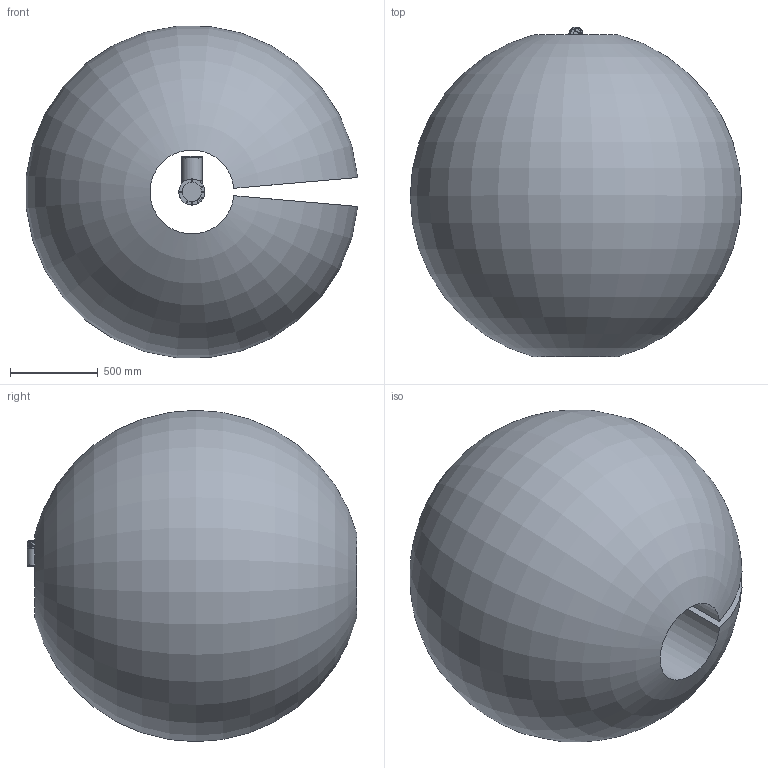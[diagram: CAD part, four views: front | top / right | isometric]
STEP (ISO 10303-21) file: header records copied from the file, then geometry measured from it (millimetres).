
FILE_DESCRIPTION (( 'STEP AP214' ), '1' );
FILE_NAME ('FR5-V6.0-外发模型-包络图.STEP', '2025-12-27T22:12:41', ( '崔兵' ), ( '' ), 'SwSTEP 2.0', 'SolidWorks 2018', '' );
FILE_SCHEMA (( 'AUTOMOTIVE_DESIGN' ));
Length unit declared in the file: millimetre
Products named in the file (9): FR5-V6.0-俋楷耀倰-婦釐芞; FR5堍雄毓峓; RD20-FR5-V6.0-4; RD20-FR5-V6.0-1; RD20-FR5-V6.0-5; RD20-FR5-V6.0-71; RD20-FR5-V6.0-6; RD20-FR5-V6.0-2; RD20-FR5-V6.0-3
Assembly tree (8 placements, depth 2):
  FR5-V6.0-俋楷耀倰-婦釐芞
    RD20-FR5-V6.0-1
    RD20-FR5-V6.0-2
    RD20-FR5-V6.0-3
    RD20-FR5-V6.0-4
    RD20-FR5-V6.0-5
    RD20-FR5-V6.0-6
    FR5堍雄毓峓
    RD20-FR5-V6.0-71
Bounding box: 1891.78 x 1881.19 x 1891.81 mm (x, y, z)
Volume: 3174549769.8 mm3; surface area: 16020234.2 mm2
Topology: 36 solids, 57 shells, 1931 faces, 4369 edges, 2723 vertices
Faces by surface type: plane 774, cylinder 639, bspline 345, cone 122, torus 27, sphere 24
Full cylindrical faces by diameter (mm): 2.5 x2, 3 x24, 3.4 x16, 6 x24, 8 x1, 9 x4, 15 x1, 61.5 x3, 62 x3, 62.5 x3, 75 x1, 79 x1, 80 x6, 94 x3, 95 x3, 110 x2, 110.5 x1, 111.5 x1, 116 x9
Entity records: 153914 total; most frequent: CARTESIAN_POINT 102266, ORIENTED_EDGE 8168, DIRECTION 7653, EDGE_CURVE 4084, AXIS2_PLACEMENT_3D 2985, VERTEX_POINT 2624, EDGE_LOOP 2344, FACE_OUTER_BOUND 2106
